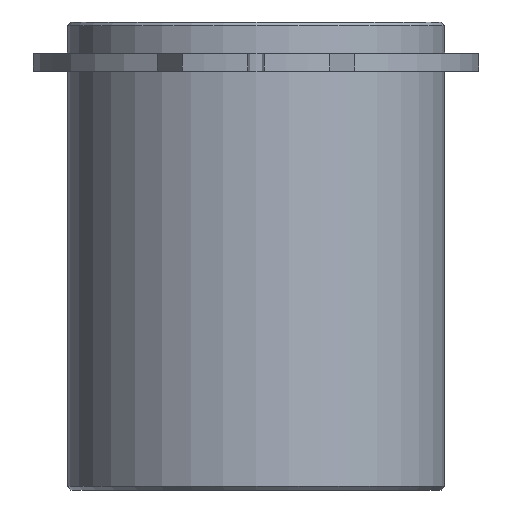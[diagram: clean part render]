
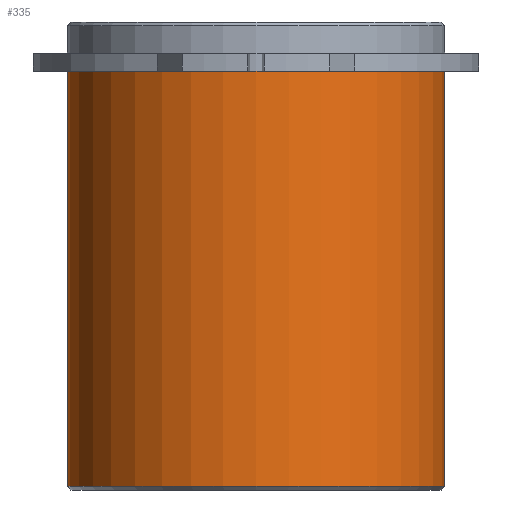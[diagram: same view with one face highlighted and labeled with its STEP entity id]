
A CAD part, front view. The second image highlights one B-rep face of the part: STEP entity #335.
In plain terms, the highlighted cylindrical face has radius 16.125 mm (diameter 32.25 mm), a partial arc.
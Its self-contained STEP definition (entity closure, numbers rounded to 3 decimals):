
#294=CARTESIAN_POINT('',(0.0,0.,-17.75));
#295=DIRECTION('',(0.0,0.,1.0));
#296=DIRECTION('',(1.0,0.0,0.0));
#297=AXIS2_PLACEMENT_3D('',#294,#295,#296);
#298=CYLINDRICAL_SURFACE('',#297,16.125);
#299=CARTESIAN_POINT('',(16.125,0.0,0.0));
#300=VERTEX_POINT('',#299);
#301=CARTESIAN_POINT('',(16.125,0.,-35.5));
#302=VERTEX_POINT('',#301);
#303=CARTESIAN_POINT('',(16.125,0.0,0.0));
#304=DIRECTION('',(0.0,0.0,-1.0));
#305=VECTOR('',#304,35.5);
#306=LINE('',#303,#305);
#307=EDGE_CURVE('',#300,#302,#306,.T.);
#308=ORIENTED_EDGE('',*,*,#307,.F.);
#309=CARTESIAN_POINT('',(-16.125,0.,0.0));
#310=VERTEX_POINT('',#309);
#311=CARTESIAN_POINT('',(0.0,0.0,0.0));
#312=DIRECTION('',(0.0,0.0,1.0));
#313=DIRECTION('',(1.0,0.0,0.0));
#314=AXIS2_PLACEMENT_3D('',#311,#312,#313);
#315=CIRCLE('',#314,16.125);
#316=EDGE_CURVE('',#310,#300,#315,.T.);
#317=ORIENTED_EDGE('',*,*,#316,.F.);
#318=CARTESIAN_POINT('',(-16.125,0.,-35.5));
#319=VERTEX_POINT('',#318);
#320=CARTESIAN_POINT('',(-16.125,0.,0.0));
#321=DIRECTION('',(0.0,0.0,-1.0));
#322=VECTOR('',#321,35.5);
#323=LINE('',#320,#322);
#324=EDGE_CURVE('',#310,#319,#323,.T.);
#325=ORIENTED_EDGE('',*,*,#324,.T.);
#326=CARTESIAN_POINT('',(0.0,0.,-35.5));
#327=DIRECTION('',(0.0,0.0,1.0));
#328=DIRECTION('',(1.0,0.0,0.0));
#329=AXIS2_PLACEMENT_3D('',#326,#327,#328);
#330=CIRCLE('',#329,16.125);
#331=EDGE_CURVE('',#319,#302,#330,.T.);
#332=ORIENTED_EDGE('',*,*,#331,.T.);
#333=EDGE_LOOP('',(#308,#317,#325,#332));
#334=FACE_OUTER_BOUND('',#333,.T.);
#335=ADVANCED_FACE('',(#334),#298,.T.);
